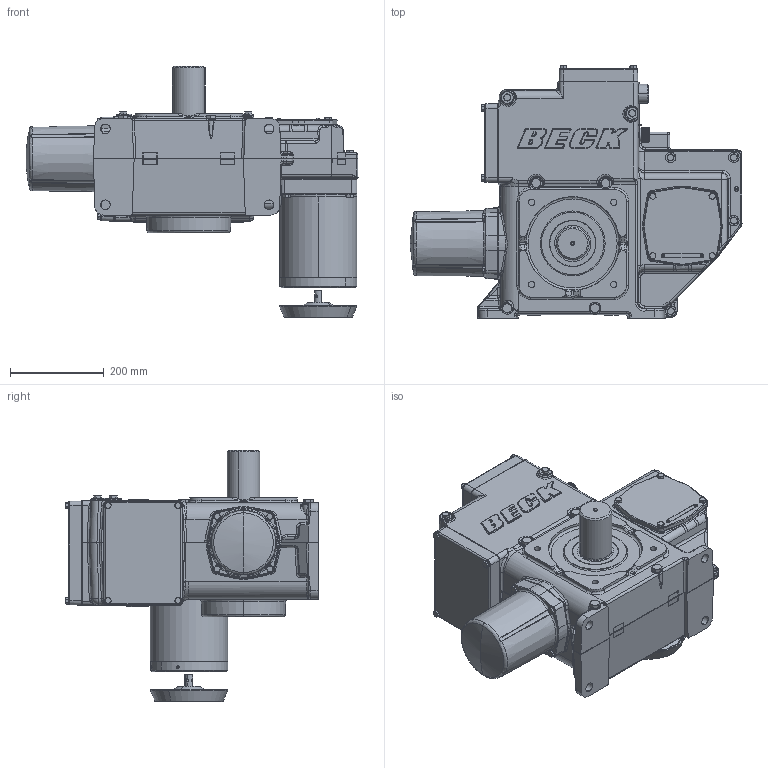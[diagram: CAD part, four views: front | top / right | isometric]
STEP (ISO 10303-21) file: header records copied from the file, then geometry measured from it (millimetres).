
FILE_DESCRIPTION (( 'STEP AP203' ), '1' );
FILE_NAME ('18-0460-01.STEP', '2013-08-27T19:48:11', ( '' ), ( '' ), 'SwSTEP 2.0', 'SolidWorks 2013', '' );
FILE_SCHEMA (( 'CONFIG_CONTROL_DESIGN' ));
Length unit declared in the file: inch
Products named in the file (1): 18-0460-01
Bounding box: 708.29 x 538.3 x 536 mm (x, y, z)
Surface area: 1498089.2 mm2 (no closed solid volume)
Topology: 0 solids, 100 shells, 2046 faces, 7377 edges, 5191 vertices
Faces by surface type: cylinder 661, plane 612, bspline 359, cone 226, torus 165, sphere 23
Entity records: 102617 total; most frequent: CARTESIAN_POINT 45466, ORIENTED_EDGE 11219, DIRECTION 11099, EDGE_CURVE 7341, VERTEX_POINT 5191, AXIS2_PLACEMENT_3D 4047, VECTOR 3005, LINE 3005
